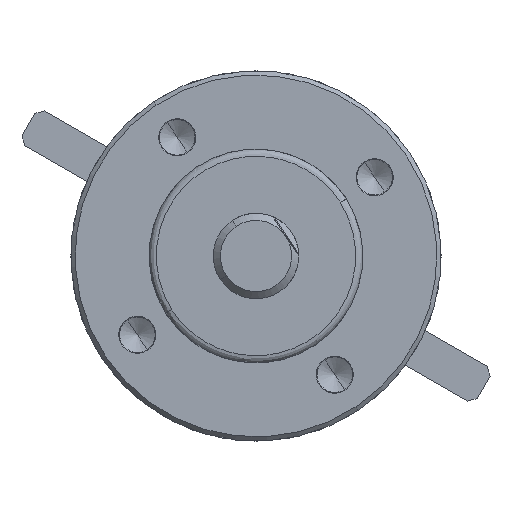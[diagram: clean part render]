
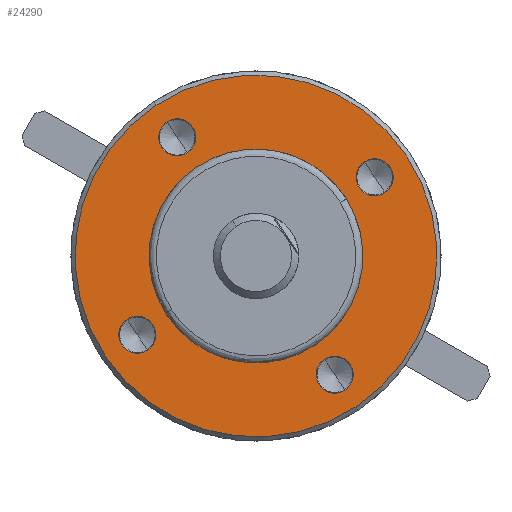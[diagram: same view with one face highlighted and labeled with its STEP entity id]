
A CAD part, left-side view. The second image highlights one B-rep face of the part: STEP entity #24290.
In plain terms, the highlighted planar face has unit normal (-1, 0, 0).
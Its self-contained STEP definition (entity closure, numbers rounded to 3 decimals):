
#110 = EDGE_LOOP ( 'NONE', ( #4960, #6215 ) ) ;
#1210 = CARTESIAN_POINT ( 'NONE',  ( 0., 0., 0. ) ) ;
#1293 = DIRECTION ( 'NONE',  ( 0., 0., 1. ) ) ;
#1442 = AXIS2_PLACEMENT_3D ( 'NONE', #28198, #8603, #31521 ) ;
#1589 = VERTEX_POINT ( 'NONE', #18323 ) ;
#1713 = AXIS2_PLACEMENT_3D ( 'NONE', #29937, #10264, #33230 ) ;
#2427 = CARTESIAN_POINT ( 'NONE',  ( 0., 0., -8.7 ) ) ;
#2975 = CARTESIAN_POINT ( 'NONE',  ( 0., 10., -1.3 ) ) ;
#3292 = CIRCLE ( 'NONE', #1442, 1.3 ) ;
#4004 = AXIS2_PLACEMENT_3D ( 'NONE', #28206, #8610, #31528 ) ;
#4518 = DIRECTION ( 'NONE',  ( 0., 0., -1. ) ) ;
#4667 = VERTEX_POINT ( 'NONE', #2427 ) ;
#4756 = DIRECTION ( 'NONE',  ( -1., 0., 0. ) ) ;
#4960 = ORIENTED_EDGE ( 'NONE', *, *, #8092, .F. ) ;
#5237 = DIRECTION ( 'NONE',  ( -1., 0., 0. ) ) ;
#5488 = EDGE_LOOP ( 'NONE', ( #26490, #21210 ) ) ;
#5954 = CIRCLE ( 'NONE', #21668, 1.3 ) ;
#5960 = ORIENTED_EDGE ( 'NONE', *, *, #28378, .F. ) ;
#6215 = ORIENTED_EDGE ( 'NONE', *, *, #33451, .F. ) ;
#6357 = CIRCLE ( 'NONE', #24199, 1.3 ) ;
#7218 = CARTESIAN_POINT ( 'NONE',  ( 0., 0., 7.5 ) ) ;
#7474 = AXIS2_PLACEMENT_3D ( 'NONE', #14258, #37214, #17546 ) ;
#7818 = CIRCLE ( 'NONE', #36879, 1.3 ) ;
#8092 = EDGE_CURVE ( 'NONE', #31783, #41291, #40001, .T. ) ;
#8603 = DIRECTION ( 'NONE',  ( -1., 0., 0. ) ) ;
#8610 = DIRECTION ( 'NONE',  ( -1., 0., 0. ) ) ;
#9043 = FACE_OUTER_BOUND ( 'NONE', #13979, .T. ) ;
#9295 = EDGE_LOOP ( 'NONE', ( #42417, #37275 ) ) ;
#10050 = FACE_BOUND ( 'NONE', #5488, .T. ) ;
#10264 = DIRECTION ( 'NONE',  ( -1., 0., 0. ) ) ;
#10391 = CARTESIAN_POINT ( 'NONE',  ( 0., 0., 0. ) ) ;
#10925 = VERTEX_POINT ( 'NONE', #31040 ) ;
#12020 = CIRCLE ( 'NONE', #7474, 1.3 ) ;
#12423 = CARTESIAN_POINT ( 'NONE',  ( 0., 0., 8.7 ) ) ;
#12591 = AXIS2_PLACEMENT_3D ( 'NONE', #32459, #12847, #35735 ) ;
#12672 = DIRECTION ( 'NONE',  ( 0., 0., -1. ) ) ;
#12847 = DIRECTION ( 'NONE',  ( 1., 0., 0. ) ) ;
#12885 = ORIENTED_EDGE ( 'NONE', *, *, #22174, .F. ) ;
#13122 = CARTESIAN_POINT ( 'NONE',  ( 0., 10., 0. ) ) ;
#13722 = DIRECTION ( 'NONE',  ( 0., 0., -1. ) ) ;
#13956 = VERTEX_POINT ( 'NONE', #34486 ) ;
#13979 = EDGE_LOOP ( 'NONE', ( #12885, #24255 ) ) ;
#14095 = CIRCLE ( 'NONE', #19096, 7.5 ) ;
#14258 = CARTESIAN_POINT ( 'NONE',  ( 0., -10., 0. ) ) ;
#14357 = CARTESIAN_POINT ( 'NONE',  ( 0., 0., 10. ) ) ;
#14517 = CARTESIAN_POINT ( 'NONE',  ( 0., -10., 1.3 ) ) ;
#14973 = EDGE_LOOP ( 'NONE', ( #42236, #30753 ) ) ;
#15294 = EDGE_CURVE ( 'NONE', #16481, #27332, #35019, .T. ) ;
#16386 = DIRECTION ( 'NONE',  ( 0., 0., 1. ) ) ;
#16481 = VERTEX_POINT ( 'NONE', #30086 ) ;
#17190 = EDGE_CURVE ( 'NONE', #35978, #29170, #12020, .T. ) ;
#17546 = DIRECTION ( 'NONE',  ( 0., 0., 1. ) ) ;
#17653 = DIRECTION ( 'NONE',  ( 0., 0., 1. ) ) ;
#18323 = CARTESIAN_POINT ( 'NONE',  ( 0., 0., -11.3 ) ) ;
#18752 = FACE_BOUND ( 'NONE', #14973, .T. ) ;
#19089 = EDGE_CURVE ( 'NONE', #1589, #4667, #41860, .T. ) ;
#19096 = AXIS2_PLACEMENT_3D ( 'NONE', #1210, #24089, #4518 ) ;
#20091 = CARTESIAN_POINT ( 'NONE',  ( 0., 0., 11.3 ) ) ;
#20931 = DIRECTION ( 'NONE',  ( -1., 0., 0. ) ) ;
#21114 = CIRCLE ( 'NONE', #1713, 7.5 ) ;
#21210 = ORIENTED_EDGE ( 'NONE', *, *, #42032, .F. ) ;
#21296 = VERTEX_POINT ( 'NONE', #7218 ) ;
#21603 = EDGE_LOOP ( 'NONE', ( #25595, #5960 ) ) ;
#21668 = AXIS2_PLACEMENT_3D ( 'NONE', #13122, #36004, #16386 ) ;
#22174 = EDGE_CURVE ( 'NONE', #27332, #16481, #37088, .T. ) ;
#22347 = CARTESIAN_POINT ( 'NONE',  ( 0., 0., 0. ) ) ;
#24089 = DIRECTION ( 'NONE',  ( -1., 0., 0. ) ) ;
#24167 = CIRCLE ( 'NONE', #35520, 1.3 ) ;
#24199 = AXIS2_PLACEMENT_3D ( 'NONE', #40516, #20931, #1293 ) ;
#24255 = ORIENTED_EDGE ( 'NONE', *, *, #15294, .F. ) ;
#24290 = ADVANCED_FACE ( 'NONE', ( #10050, #35200, #18752, #26449, #36209, #9043 ), #28981, .F. ) ;
#24347 = CARTESIAN_POINT ( 'NONE',  ( 0., 10., 0. ) ) ;
#24849 = CARTESIAN_POINT ( 'NONE',  ( 0., 0., 10. ) ) ;
#25559 = EDGE_CURVE ( 'NONE', #13956, #33017, #24167, .T. ) ;
#25595 = ORIENTED_EDGE ( 'NONE', *, *, #27370, .F. ) ;
#26449 = FACE_BOUND ( 'NONE', #9295, .T. ) ;
#26490 = ORIENTED_EDGE ( 'NONE', *, *, #17190, .F. ) ;
#27332 = VERTEX_POINT ( 'NONE', #33757 ) ;
#27370 = EDGE_CURVE ( 'NONE', #10925, #21296, #14095, .T. ) ;
#27639 = DIRECTION ( 'NONE',  ( 0., 0., 1. ) ) ;
#28048 = AXIS2_PLACEMENT_3D ( 'NONE', #14357, #37304, #17653 ) ;
#28130 = DIRECTION ( 'NONE',  ( 0., 0., 1. ) ) ;
#28198 = CARTESIAN_POINT ( 'NONE',  ( 0., 0., -10. ) ) ;
#28206 = CARTESIAN_POINT ( 'NONE',  ( 0., 0., -10. ) ) ;
#28378 = EDGE_CURVE ( 'NONE', #21296, #10925, #21114, .T. ) ;
#28981 = PLANE ( 'NONE',  #29667 ) ;
#29170 = VERTEX_POINT ( 'NONE', #34208 ) ;
#29667 = AXIS2_PLACEMENT_3D ( 'NONE', #22347, #32261, #12672 ) ;
#29937 = CARTESIAN_POINT ( 'NONE',  ( 0., 0., 0. ) ) ;
#30086 = CARTESIAN_POINT ( 'NONE',  ( 0., 0., 12.7 ) ) ;
#30753 = ORIENTED_EDGE ( 'NONE', *, *, #40302, .F. ) ;
#31040 = CARTESIAN_POINT ( 'NONE',  ( 0., 0., -7.5 ) ) ;
#31521 = DIRECTION ( 'NONE',  ( 0., 0., 1. ) ) ;
#31528 = DIRECTION ( 'NONE',  ( 0., 0., 1. ) ) ;
#31783 = VERTEX_POINT ( 'NONE', #20091 ) ;
#32055 = AXIS2_PLACEMENT_3D ( 'NONE', #10391, #33349, #13722 ) ;
#32261 = DIRECTION ( 'NONE',  ( 1., 0., 0. ) ) ;
#32459 = CARTESIAN_POINT ( 'NONE',  ( 0., 0., 0. ) ) ;
#33017 = VERTEX_POINT ( 'NONE', #2975 ) ;
#33230 = DIRECTION ( 'NONE',  ( 0., 0., -1. ) ) ;
#33349 = DIRECTION ( 'NONE',  ( 1., 0., 0. ) ) ;
#33451 = EDGE_CURVE ( 'NONE', #41291, #31783, #7818, .T. ) ;
#33757 = CARTESIAN_POINT ( 'NONE',  ( 0., 0., -12.7 ) ) ;
#34208 = CARTESIAN_POINT ( 'NONE',  ( 0., -10., -1.3 ) ) ;
#34486 = CARTESIAN_POINT ( 'NONE',  ( 0., 10., 1.3 ) ) ;
#35019 = CIRCLE ( 'NONE', #32055, 12.7 ) ;
#35200 = FACE_BOUND ( 'NONE', #110, .T. ) ;
#35520 = AXIS2_PLACEMENT_3D ( 'NONE', #24347, #4756, #27639 ) ;
#35735 = DIRECTION ( 'NONE',  ( 0., 0., -1. ) ) ;
#35978 = VERTEX_POINT ( 'NONE', #14517 ) ;
#36004 = DIRECTION ( 'NONE',  ( -1., 0., 0. ) ) ;
#36209 = FACE_BOUND ( 'NONE', #21603, .T. ) ;
#36879 = AXIS2_PLACEMENT_3D ( 'NONE', #24849, #5237, #28130 ) ;
#37088 = CIRCLE ( 'NONE', #12591, 12.7 ) ;
#37214 = DIRECTION ( 'NONE',  ( -1., 0., 0. ) ) ;
#37275 = ORIENTED_EDGE ( 'NONE', *, *, #19089, .F. ) ;
#37304 = DIRECTION ( 'NONE',  ( -1., 0., 0. ) ) ;
#40001 = CIRCLE ( 'NONE', #28048, 1.3 ) ;
#40302 = EDGE_CURVE ( 'NONE', #33017, #13956, #5954, .T. ) ;
#40516 = CARTESIAN_POINT ( 'NONE',  ( 0., -10., 0. ) ) ;
#41291 = VERTEX_POINT ( 'NONE', #12423 ) ;
#41860 = CIRCLE ( 'NONE', #4004, 1.3 ) ;
#42032 = EDGE_CURVE ( 'NONE', #29170, #35978, #6357, .T. ) ;
#42236 = ORIENTED_EDGE ( 'NONE', *, *, #25559, .F. ) ;
#42302 = EDGE_CURVE ( 'NONE', #4667, #1589, #3292, .T. ) ;
#42417 = ORIENTED_EDGE ( 'NONE', *, *, #42302, .F. ) ;
